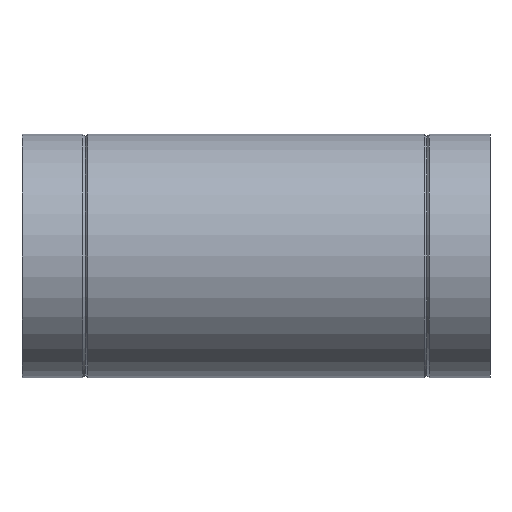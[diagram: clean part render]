
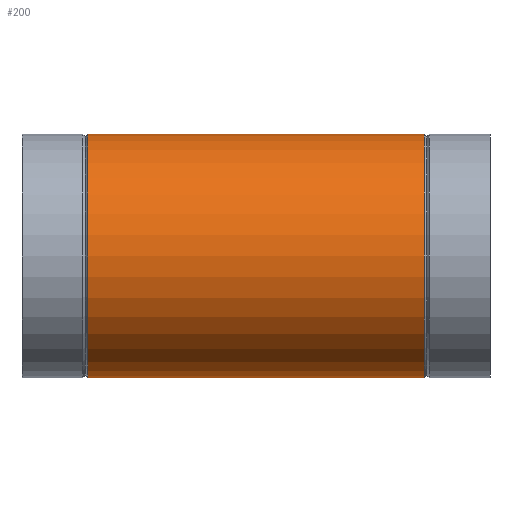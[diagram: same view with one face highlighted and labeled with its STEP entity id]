
A CAD part, left-side view. The second image highlights one B-rep face of the part: STEP entity #200.
In plain terms, the highlighted cylindrical face has radius 125 mm (diameter 250 mm), a full revolution.
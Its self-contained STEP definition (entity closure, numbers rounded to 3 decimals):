
#15=B_SPLINE_CURVE_WITH_KNOTS($,3,(#325,#326,#327,#328,#329,#330,#331,#332,
#333,#334,#335,#336,#337,#338,#339,#340,#341,#342,#343,#344,#345,#346,#347,
#348,#349,#350,#351,#352,#353,#354,#355,#356,#357,#358,#359,#360,#361,#362,
#363,#364,#365,#366,#367,#368,#369,#370,#371,#372,#373,#374,#375,#376,#377,
#378,#379,#380,#381,#382,#383,#384,#385,#386,#387,#388,#389,#390,#391,#392,
#393,#394,#395,#396,#397,#398),.UNSPECIFIED.,.T.,.F.,(4,2,2,2,2,2,2,2,2,
2,2,2,2,2,2,2,2,2,2,2,2,2,2,2,2,2,2,2,2,2,2,2,2,2,2,2,4),(0.,1.036,
2.072,4.144,6.215,8.287,10.274,
12.262,14.249,16.236,18.224,20.211,
22.198,24.185,26.257,28.329,30.401,
31.437,32.473,33.491,34.51,36.548,
38.586,40.624,42.604,44.584,46.564,
48.544,50.524,52.504,54.484,56.464,
58.502,60.539,62.577,63.596,64.615),
 .UNSPECIFIED.);
#17=CYLINDRICAL_SURFACE($,#222,125.);
#26=FACE_BOUND($,#63,.T.);
#27=FACE_BOUND($,#64,.T.);
#48=FACE_OUTER_BOUND($,#62,.T.);
#62=EDGE_LOOP($,(#145));
#63=EDGE_LOOP($,(#146));
#64=EDGE_LOOP($,(#147));
#94=CIRCLE($,#221,125.);
#95=CIRCLE($,#223,125.);
#109=VERTEX_POINT($,#319);
#110=VERTEX_POINT($,#322);
#111=VERTEX_POINT($,#324);
#126=EDGE_CURVE($,#109,#109,#94,.T.);
#127=EDGE_CURVE($,#110,#110,#95,.T.);
#128=EDGE_CURVE($,#111,#111,#15,.T.);
#145=ORIENTED_EDGE($,*,*,#127,.T.);
#146=ORIENTED_EDGE($,*,*,#128,.T.);
#147=ORIENTED_EDGE($,*,*,#126,.T.);
#200=ADVANCED_FACE($,(#48,#26,#27),#17,.T.);
#221=AXIS2_PLACEMENT_3D($,#320,#258,#259);
#222=AXIS2_PLACEMENT_3D($,#321,#260,#261);
#223=AXIS2_PLACEMENT_3D($,#323,#262,#263);
#258=DIRECTION('center_axis',(0.,-1.,0.));
#259=DIRECTION('ref_axis',(1.,0.,0.));
#260=DIRECTION('center_axis',(0.,1.,0.));
#261=DIRECTION('ref_axis',(1.,0.,0.));
#262=DIRECTION('center_axis',(0.,1.,0.));
#263=DIRECTION('ref_axis',(1.,0.,0.));
#319=CARTESIAN_POINT('',(125.,412.5,0.));
#320=CARTESIAN_POINT('Origin',(0.,412.5,0.));
#321=CARTESIAN_POINT('Origin',(0.,0.,0.));
#322=CARTESIAN_POINT('',(-125.,67.5,0.));
#323=CARTESIAN_POINT('Origin',(0.,67.5,0.));
#324=CARTESIAN_POINT('',(75.,241.964,100.));
#325=CARTESIAN_POINT('Ctrl Pts',(75.,241.964,100.));
#326=CARTESIAN_POINT('Ctrl Pts',(75.,245.417,100.));
#327=CARTESIAN_POINT('Ctrl Pts',(75.24,248.855,99.821));
#328=CARTESIAN_POINT('Ctrl Pts',(76.16,255.662,99.121));
#329=CARTESIAN_POINT('Ctrl Pts',(76.84,259.032,98.599));
#330=CARTESIAN_POINT('Ctrl Pts',(79.422,268.984,96.55));
#331=CARTESIAN_POINT('Ctrl Pts',(81.869,275.414,94.536));
#332=CARTESIAN_POINT('Ctrl Pts',(87.474,287.642,89.374));
#333=CARTESIAN_POINT('Ctrl Pts',(90.63,293.447,86.223));
#334=CARTESIAN_POINT('Ctrl Pts',(96.998,304.217,78.992));
#335=CARTESIAN_POINT('Ctrl Pts',(100.208,309.18,74.909));
#336=CARTESIAN_POINT('Ctrl Pts',(106.064,317.862,66.341));
#337=CARTESIAN_POINT('Ctrl Pts',(108.947,321.938,61.567));
#338=CARTESIAN_POINT('Ctrl Pts',(114.263,329.259,51.028));
#339=CARTESIAN_POINT('Ctrl Pts',(116.695,332.503,45.262));
#340=CARTESIAN_POINT('Ctrl Pts',(120.725,337.809,33.045));
#341=CARTESIAN_POINT('Ctrl Pts',(122.325,339.875,26.579));
#342=CARTESIAN_POINT('Ctrl Pts',(124.463,342.625,13.369));
#343=CARTESIAN_POINT('Ctrl Pts',(125.,343.308,6.624));
#344=CARTESIAN_POINT('Ctrl Pts',(125.,343.308,-6.624));
#345=CARTESIAN_POINT('Ctrl Pts',(124.463,342.625,-13.369));
#346=CARTESIAN_POINT('Ctrl Pts',(122.325,339.875,-26.579));
#347=CARTESIAN_POINT('Ctrl Pts',(120.725,337.809,-33.045));
#348=CARTESIAN_POINT('Ctrl Pts',(116.695,332.503,-45.262));
#349=CARTESIAN_POINT('Ctrl Pts',(114.263,329.259,-51.028));
#350=CARTESIAN_POINT('Ctrl Pts',(108.947,321.938,-61.567));
#351=CARTESIAN_POINT('Ctrl Pts',(106.064,317.862,-66.341));
#352=CARTESIAN_POINT('Ctrl Pts',(100.208,309.18,-74.909));
#353=CARTESIAN_POINT('Ctrl Pts',(96.998,304.217,-78.992));
#354=CARTESIAN_POINT('Ctrl Pts',(90.63,293.447,-86.223));
#355=CARTESIAN_POINT('Ctrl Pts',(87.474,287.642,-89.374));
#356=CARTESIAN_POINT('Ctrl Pts',(81.869,275.414,-94.536));
#357=CARTESIAN_POINT('Ctrl Pts',(79.422,268.984,-96.55));
#358=CARTESIAN_POINT('Ctrl Pts',(76.84,259.032,-98.599));
#359=CARTESIAN_POINT('Ctrl Pts',(76.16,255.662,-99.121));
#360=CARTESIAN_POINT('Ctrl Pts',(75.24,248.855,-99.821));
#361=CARTESIAN_POINT('Ctrl Pts',(75.,245.417,-100.));
#362=CARTESIAN_POINT('Ctrl Pts',(75.,238.567,-100.));
#363=CARTESIAN_POINT('Ctrl Pts',(75.233,235.184,-99.827));
#364=CARTESIAN_POINT('Ctrl Pts',(76.133,228.487,-99.142));
#365=CARTESIAN_POINT('Ctrl Pts',(76.8,225.174,-98.63));
#366=CARTESIAN_POINT('Ctrl Pts',(79.349,215.398,-96.61));
#367=CARTESIAN_POINT('Ctrl Pts',(81.778,209.095,-94.614));
#368=CARTESIAN_POINT('Ctrl Pts',(87.363,197.151,-89.483));
#369=CARTESIAN_POINT('Ctrl Pts',(90.516,191.498,-86.342));
#370=CARTESIAN_POINT('Ctrl Pts',(96.881,181.042,-79.134));
#371=CARTESIAN_POINT('Ctrl Pts',(100.092,176.24,-75.063));
#372=CARTESIAN_POINT('Ctrl Pts',(105.979,167.81,-66.482));
#373=CARTESIAN_POINT('Ctrl Pts',(108.889,163.845,-61.672));
#374=CARTESIAN_POINT('Ctrl Pts',(114.246,156.747,-51.069));
#375=CARTESIAN_POINT('Ctrl Pts',(116.691,153.613,-45.276));
#376=CARTESIAN_POINT('Ctrl Pts',(120.733,148.503,-33.019));
#377=CARTESIAN_POINT('Ctrl Pts',(122.333,146.522,-26.542));
#378=CARTESIAN_POINT('Ctrl Pts',(124.467,143.889,-13.332));
#379=CARTESIAN_POINT('Ctrl Pts',(125.,143.239,-6.6));
#380=CARTESIAN_POINT('Ctrl Pts',(125.,143.239,6.6));
#381=CARTESIAN_POINT('Ctrl Pts',(124.467,143.889,13.332));
#382=CARTESIAN_POINT('Ctrl Pts',(122.333,146.522,26.542));
#383=CARTESIAN_POINT('Ctrl Pts',(120.733,148.503,33.019));
#384=CARTESIAN_POINT('Ctrl Pts',(116.691,153.613,45.276));
#385=CARTESIAN_POINT('Ctrl Pts',(114.246,156.747,51.069));
#386=CARTESIAN_POINT('Ctrl Pts',(108.889,163.845,61.672));
#387=CARTESIAN_POINT('Ctrl Pts',(105.979,167.81,66.482));
#388=CARTESIAN_POINT('Ctrl Pts',(100.092,176.24,75.063));
#389=CARTESIAN_POINT('Ctrl Pts',(96.881,181.042,79.134));
#390=CARTESIAN_POINT('Ctrl Pts',(90.516,191.498,86.342));
#391=CARTESIAN_POINT('Ctrl Pts',(87.363,197.151,89.483));
#392=CARTESIAN_POINT('Ctrl Pts',(81.778,209.095,94.614));
#393=CARTESIAN_POINT('Ctrl Pts',(79.349,215.398,96.61));
#394=CARTESIAN_POINT('Ctrl Pts',(76.8,225.174,98.63));
#395=CARTESIAN_POINT('Ctrl Pts',(76.133,228.487,99.142));
#396=CARTESIAN_POINT('Ctrl Pts',(75.233,235.184,99.827));
#397=CARTESIAN_POINT('Ctrl Pts',(75.,238.567,100.));
#398=CARTESIAN_POINT('Ctrl Pts',(75.,241.964,100.));
